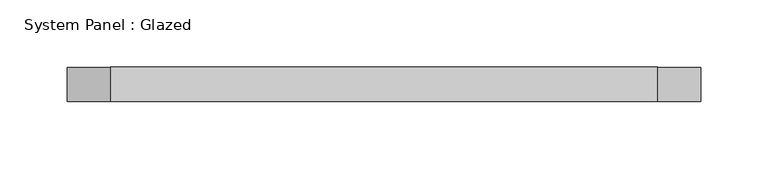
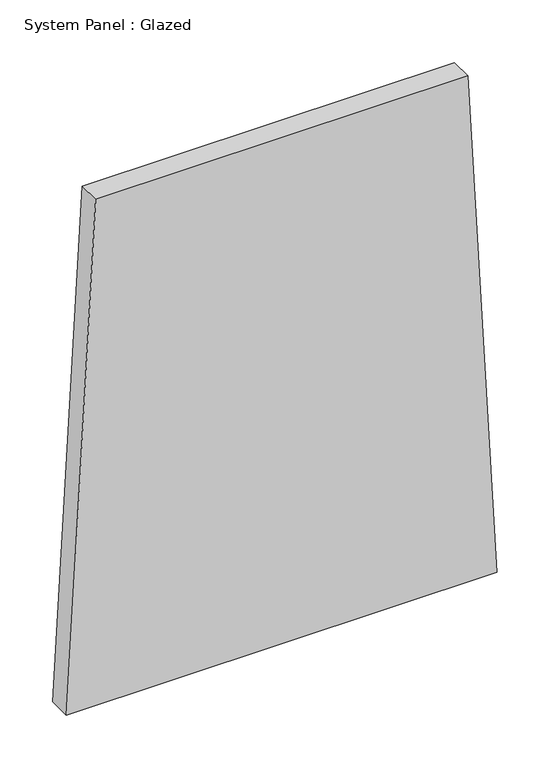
"""IFC4 building model written with IfcOpenShell, lengths in millimetres: plate geometry, System Panel : Glazed."""

from ifc_helpers import new_model, si_unit, frame, origin, place, context, project, spatial, polyline, outline, extrude, source, transform, mapped, element, save


def system_panel_glazed_62a807d2(model_context):
    return source(origin(), model_context, "Body", "SweptSolid", [
        extrude(outline(polyline([(0.0, -234.9561118), (0.0, 234.9561118), (583.2977141, 203.1846356), (583.2977141, -203.1846356), (0.0, -234.9561118)])), frame((0.0, 19.05, 0.0), z_axis=(0.0, 1.0, 0.0), x_axis=(0.0, 0.0, 1.0)), (0.0, 0.0, 1.0), 25.4),
    ])


if __name__ == "__main__":
    model = new_model("IFC4")
    model_context = context("Model", 3, world=origin())
    ifc_project = project(units=[si_unit("LENGTHUNIT", "METRE", prefix="MILLI")], contexts=[model_context])
    site = spatial("IfcSite", under=ifc_project)
    building = spatial("IfcBuilding", under=site)
    placement = place(None, origin())
    system_panel_glazed_shape = system_panel_glazed_62a807d2(model_context)
    element("IfcPlate", 1, ObjectType="System Panel : Glazed", at=placement, inside=building, context=model_context, shape_type="MappedRepresentation", body=[
        mapped(system_panel_glazed_shape, transform((0.0, 0.0, 0.0), x_axis=(1.0, 0.0, 0.0), y_axis=(0.0, 1.0, 0.0), z_axis=(0.0, 0.0, 1.0))),
    ])
    save(model, "model.ifc")
